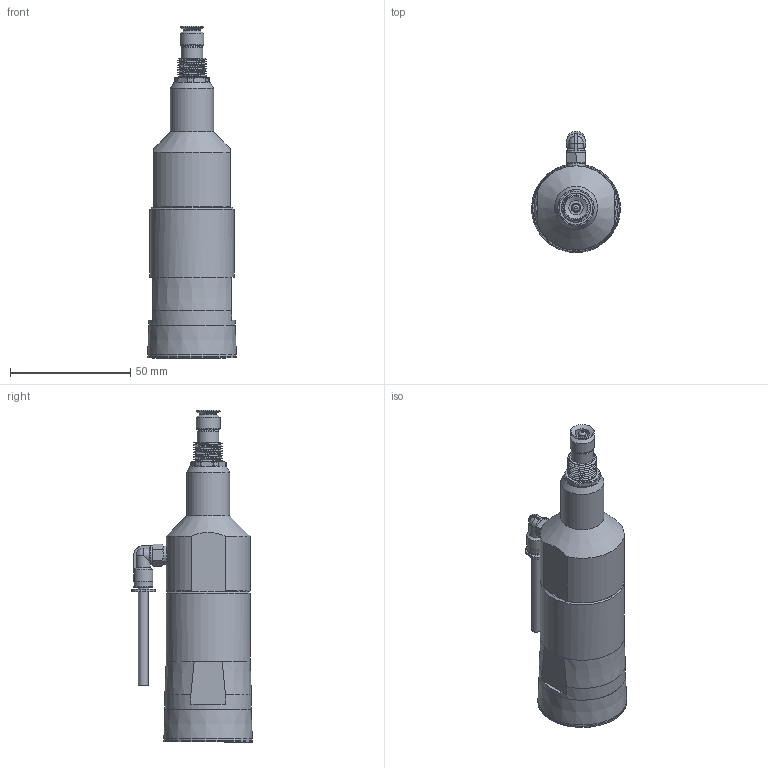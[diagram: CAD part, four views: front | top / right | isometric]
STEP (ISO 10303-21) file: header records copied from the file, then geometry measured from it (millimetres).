
FILE_DESCRIPTION (( 'STEP AP214' ), '1' );
FILE_NAME ('ASPHDxx SUCTION HEAD KBL15 - 010122.STEP', '2023-06-21T15:04:23', ( '' ), ( '' ), 'SwSTEP 2.0', 'SolidWorks 2022', '' );
FILE_SCHEMA (( 'AUTOMOTIVE_DESIGN' ));
Length unit declared in the file: millimetre
Products named in the file (1): ASPHDxx SUCTION HEAD KBL15 - 010122
Bounding box: 36.96 x 50.38 x 138.2 mm (x, y, z)
Volume: 41935.6 mm3; surface area: 34760.5 mm2
Topology: 12 solids, 13 shells, 261 faces, 653 edges, 432 vertices
Faces by surface type: plane 96, cylinder 80, cone 54, bspline 24, torus 7
Full cylindrical faces by diameter (mm): 3 x2, 3.5 x1, 4 x3, 4.134 x1, 4.2 x1, 4.706 x1, 4.74 x1, 5 x2, 6 x2, 7 x4, 7.6 x2, 8 x4, 9 x2, 10 x1, 12 x1, 16 x1, 18 x1, 19.05 x2, 28 x6, 29.2 x2, 35 x1, 36 x1, 37 x1
Entity records: 24141 total; most frequent: CARTESIAN_POINT 15892, ORIENTED_EDGE 1054, DIRECTION 998, EDGE_CURVE 527, AXIS2_PLACEMENT_3D 437, VERTEX_POINT 389, EDGE_LOOP 364, FACE_OUTER_BOUND 298
